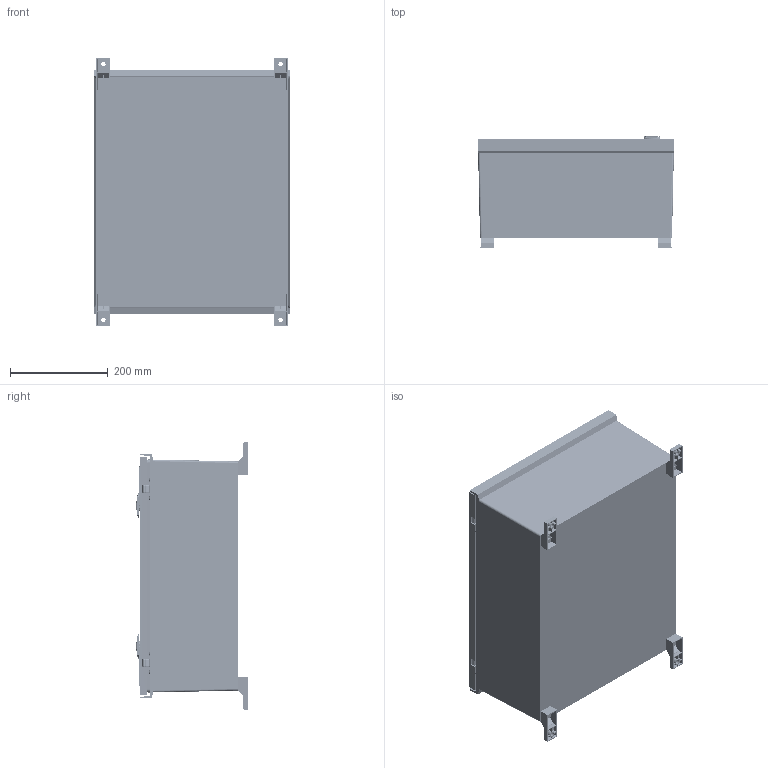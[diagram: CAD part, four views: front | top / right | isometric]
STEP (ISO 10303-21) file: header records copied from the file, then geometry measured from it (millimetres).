
FILE_DESCRIPTION (( 'STEP AP203' ), '1' );
FILE_NAME ('CN5XN0542 simple.STEP', '2026-07-14T10:36:58', ( '' ), ( '' ), 'SwSTEP 2.0', 'SolidWorks 2022', '' );
FILE_SCHEMA (( 'CONFIG_CONTROL_DESIGN' ));
Products named in the file (1): CN5XN0542 simple
Bounding box: 400.77 x 227.44 x 545.7 mm (x, y, z)
Volume: 2533270.6 mm3; surface area: 1751886.5 mm2
Topology: 56 solids, 60 shells, 6882 faces, 17292 edges, 10421 vertices
Faces by surface type: cylinder 2331, plane 2184, bspline 922, cone 890, torus 325, sphere 230
Entity records: 309320 total; most frequent: CARTESIAN_POINT 155065, ORIENTED_EDGE 33916, DIRECTION 29445, EDGE_CURVE 16958, AXIS2_PLACEMENT_3D 10853, VERTEX_POINT 10415, VECTOR 7739, LINE 7739
